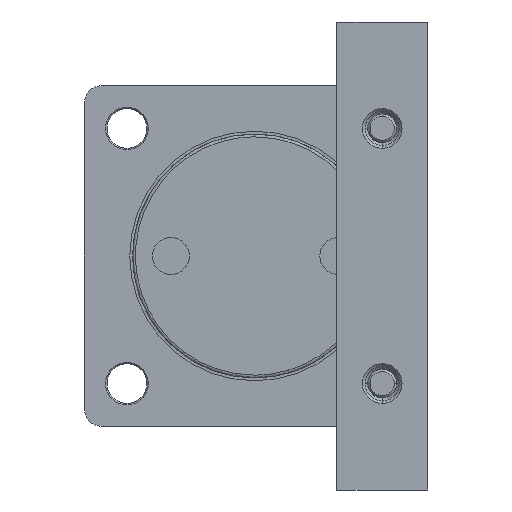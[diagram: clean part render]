
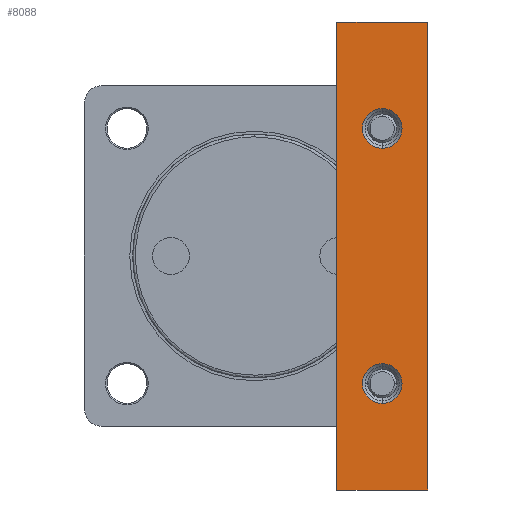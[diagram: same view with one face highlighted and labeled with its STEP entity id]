
A CAD part, left-side view. The second image highlights one B-rep face of the part: STEP entity #8088.
In plain terms, the highlighted planar face has unit normal (-1, 0, 0).
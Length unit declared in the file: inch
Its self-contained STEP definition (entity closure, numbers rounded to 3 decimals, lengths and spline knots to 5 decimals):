
#144 = DIRECTION ( 'NONE',  ( 0., 1., 0. ) ) ;
#159 = CARTESIAN_POINT ( 'NONE',  ( -2.1063, -1.14173, 3.24803 ) ) ;
#618 = DIRECTION ( 'NONE',  ( 0., 0., -1. ) ) ;
#736 = EDGE_CURVE ( 'NONE', #12004, #13480, #5501, .T. ) ;
#1291 = CIRCLE ( 'NONE', #9525, 0.27559 ) ;
#1506 = VECTOR ( 'NONE', #13580, 39.37008 ) ;
#1562 = LINE ( 'NONE', #13748, #1506 ) ;
#1775 = VECTOR ( 'NONE', #144, 39.37008 ) ;
#2085 = CARTESIAN_POINT ( 'NONE',  ( -2.1063, -1.77165, 1.49606 ) ) ;
#2517 = FACE_BOUND ( 'NONE', #5764, .T. ) ;
#2575 = AXIS2_PLACEMENT_3D ( 'NONE', #13723, #13719, #13704 ) ;
#2614 = FACE_BOUND ( 'NONE', #3127, .T. ) ;
#2677 = FACE_OUTER_BOUND ( 'NONE', #5887, .T. ) ;
#2731 = CARTESIAN_POINT ( 'NONE',  ( -2.1063, -1.77165, 2.04724 ) ) ;
#2957 = CARTESIAN_POINT ( 'NONE',  ( -2.1063, -1.14173, 3.24803 ) ) ;
#3028 = EDGE_CURVE ( 'NONE', #8317, #5794, #7264, .T. ) ;
#3127 = EDGE_LOOP ( 'NONE', ( #8486, #11100 ) ) ;
#3793 = EDGE_CURVE ( 'NONE', #10783, #5551, #4043, .T. ) ;
#4043 = CIRCLE ( 'NONE', #9967, 0.27559 ) ;
#4177 = CARTESIAN_POINT ( 'NONE',  ( -2.1063, -1.77165, -1.49606 ) ) ;
#4631 = VERTEX_POINT ( 'NONE', #2957 ) ;
#4893 = DIRECTION ( 'NONE',  ( 0., 0., 1. ) ) ;
#4910 = DIRECTION ( 'NONE',  ( -1., 0., 0. ) ) ;
#4931 = CARTESIAN_POINT ( 'NONE',  ( -2.1063, -1.77165, 1.77165 ) ) ;
#5074 = AXIS2_PLACEMENT_3D ( 'NONE', #9055, #9058, #9075 ) ;
#5501 = CIRCLE ( 'NONE', #5074, 0.27559 ) ;
#5551 = VERTEX_POINT ( 'NONE', #2085 ) ;
#5764 = EDGE_LOOP ( 'NONE', ( #8856, #7103 ) ) ;
#5794 = VERTEX_POINT ( 'NONE', #12533 ) ;
#5887 = EDGE_LOOP ( 'NONE', ( #10026, #6397, #6290, #8218 ) ) ;
#6081 = VERTEX_POINT ( 'NONE', #12965 ) ;
#6290 = ORIENTED_EDGE ( 'NONE', *, *, #3028, .T. ) ;
#6319 = DIRECTION ( 'NONE',  ( 0., 0., 1. ) ) ;
#6336 = DIRECTION ( 'NONE',  ( -1., 0., 0. ) ) ;
#6338 = CARTESIAN_POINT ( 'NONE',  ( -2.1063, -1.77165, 1.77165 ) ) ;
#6397 = ORIENTED_EDGE ( 'NONE', *, *, #12553, .T. ) ;
#6523 = VECTOR ( 'NONE', #14378, 39.37008 ) ;
#6641 = CARTESIAN_POINT ( 'NONE',  ( -2.1063, -1.14173, 3.24803 ) ) ;
#7103 = ORIENTED_EDGE ( 'NONE', *, *, #14141, .F. ) ;
#7264 = LINE ( 'NONE', #14177, #6523 ) ;
#7359 = EDGE_CURVE ( 'NONE', #4631, #6081, #7811, .T. ) ;
#7390 = VECTOR ( 'NONE', #618, 39.37008 ) ;
#7729 = LINE ( 'NONE', #159, #1775 ) ;
#7811 = LINE ( 'NONE', #6641, #7390 ) ;
#8088 = ADVANCED_FACE ( 'NONE', ( #2677, #2517, #2614 ), #11235, .F. ) ;
#8218 = ORIENTED_EDGE ( 'NONE', *, *, #13325, .T. ) ;
#8317 = VERTEX_POINT ( 'NONE', #8643 ) ;
#8486 = ORIENTED_EDGE ( 'NONE', *, *, #736, .F. ) ;
#8643 = CARTESIAN_POINT ( 'NONE',  ( -2.1063, -2.40157, -3.24803 ) ) ;
#8856 = ORIENTED_EDGE ( 'NONE', *, *, #3793, .F. ) ;
#8959 = CARTESIAN_POINT ( 'NONE',  ( -2.1063, -1.77165, -2.04724 ) ) ;
#9055 = CARTESIAN_POINT ( 'NONE',  ( -2.1063, -1.77165, -1.77165 ) ) ;
#9058 = DIRECTION ( 'NONE',  ( -1., 0., 0. ) ) ;
#9075 = DIRECTION ( 'NONE',  ( 0., 0., 1. ) ) ;
#9525 = AXIS2_PLACEMENT_3D ( 'NONE', #4931, #4910, #4893 ) ;
#9967 = AXIS2_PLACEMENT_3D ( 'NONE', #6338, #6336, #6319 ) ;
#9990 = CIRCLE ( 'NONE', #2575, 0.27559 ) ;
#10026 = ORIENTED_EDGE ( 'NONE', *, *, #7359, .T. ) ;
#10503 = AXIS2_PLACEMENT_3D ( 'NONE', #11221, #11166, #11149 ) ;
#10783 = VERTEX_POINT ( 'NONE', #2731 ) ;
#11100 = ORIENTED_EDGE ( 'NONE', *, *, #11289, .F. ) ;
#11149 = DIRECTION ( 'NONE',  ( 0., 0., -1. ) ) ;
#11166 = DIRECTION ( 'NONE',  ( 1., 0., 0. ) ) ;
#11221 = CARTESIAN_POINT ( 'NONE',  ( -2.1063, -2.40157, 3.24803 ) ) ;
#11235 = PLANE ( 'NONE',  #10503 ) ;
#11289 = EDGE_CURVE ( 'NONE', #13480, #12004, #9990, .T. ) ;
#12004 = VERTEX_POINT ( 'NONE', #4177 ) ;
#12533 = CARTESIAN_POINT ( 'NONE',  ( -2.1063, -2.40157, 3.24803 ) ) ;
#12553 = EDGE_CURVE ( 'NONE', #6081, #8317, #1562, .T. ) ;
#12965 = CARTESIAN_POINT ( 'NONE',  ( -2.1063, -1.14173, -3.24803 ) ) ;
#13325 = EDGE_CURVE ( 'NONE', #5794, #4631, #7729, .T. ) ;
#13480 = VERTEX_POINT ( 'NONE', #8959 ) ;
#13580 = DIRECTION ( 'NONE',  ( 0., -1., 0. ) ) ;
#13704 = DIRECTION ( 'NONE',  ( 0., 0., 1. ) ) ;
#13719 = DIRECTION ( 'NONE',  ( -1., 0., 0. ) ) ;
#13723 = CARTESIAN_POINT ( 'NONE',  ( -2.1063, -1.77165, -1.77165 ) ) ;
#13748 = CARTESIAN_POINT ( 'NONE',  ( -2.1063, -1.14173, -3.24803 ) ) ;
#14141 = EDGE_CURVE ( 'NONE', #5551, #10783, #1291, .T. ) ;
#14177 = CARTESIAN_POINT ( 'NONE',  ( -2.1063, -2.40157, 3.24803 ) ) ;
#14378 = DIRECTION ( 'NONE',  ( 0., 0., 1. ) ) ;
